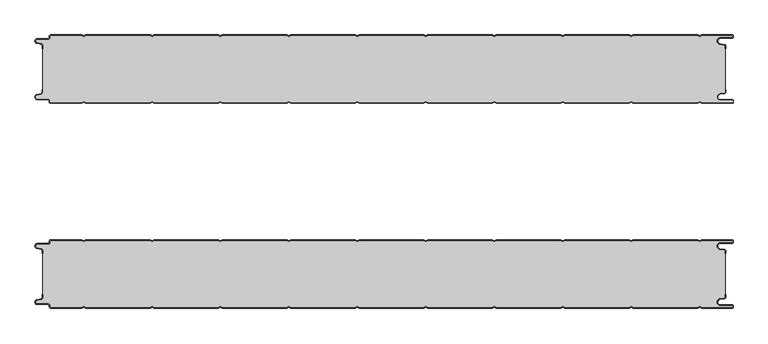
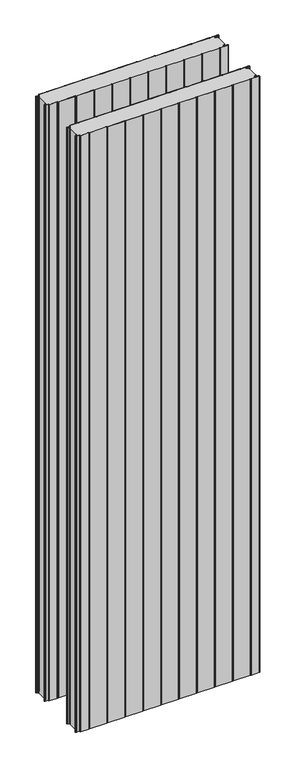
"""IFC4 building model written with IfcOpenShell, lengths in millimetres: plate geometry, Curtain-Panel_Doble-Panel-Acústico_Perfil-frigorífico-PMH : ACH_Doble-Panel-Acústico_PMH_100-200-100."""

from ifc_helpers import new_model, si_unit, point, frame_2d, origin, origin_with_axes, place, context, project, spatial, polyline, circle_curve, trimmed, segment, composite_curve, outline, extrude, source, transform, mapped, element, save


def plate_c56acabb(model_context):
    return source(origin(), model_context, "Body", "SweptSolid", [
        extrude(outline(composite_curve([segment(trimmed(circle_curve(frame_2d((-502.0, -315.878557)), 2.0), [point((-500.0, -315.878557))], [point((-501.5500978, -313.9298169))], True, "CARTESIAN"), True, "CONTINUOUS"), segment(polyline([(-501.5500978, -313.9298169), (-507.7098239, -312.507732)]), True, "CONTINUOUS"), segment(trimmed(circle_curve(frame_2d((-506.9, -309.0)), 3.6), [point((-507.7098239, -312.507732))], [point((-506.9, -305.4))], False, "CARTESIAN"), True, "CONTINUOUS"), segment(polyline([(-506.9, -305.4), (-491.4, -305.4)]), True, "CONTINUOUS"), segment(trimmed(circle_curve(frame_2d((-491.4, -303.4)), 2.0), [point((-491.4, -305.4))], [point((-489.4, -303.4))], True, "CARTESIAN"), True, "CONTINUOUS"), segment(polyline([(-489.4, -303.4), (-489.4, -302.0)]), True, "CONTINUOUS"), segment(trimmed(circle_curve(frame_2d((-487.4, -302.0)), 2.0), [point((-489.4, -302.0))], [point((-487.4, -300.0))], False, "CARTESIAN"), True, "CONTINUOUS"), segment(polyline([(-487.4, -300.0), (-442.0999995, -300.0), (-439.4, -301.5588455), (-436.7000005, -300.0), (-342.0999995, -300.0), (-339.4, -301.5588455), (-336.7000005, -300.0), (-242.0999995, -300.0), (-239.4, -301.5588455), (-236.7000005, -300.0), (-142.0999995, -300.0), (-139.4, -301.5588455), (-136.7000005, -300.0), (-42.0999995, -300.0), (-39.4, -301.5588455), (-36.7000005, -300.0), (57.9000005, -300.0), (60.6, -301.5588455), (63.2999995, -300.0), (157.9000005, -300.0), (160.6, -301.5588455), (163.2999995, -300.0), (257.9000005, -300.0), (260.6, -301.5588455), (263.2999995, -300.0), (357.9000005, -300.0), (360.6, -301.5588455), (363.2999995, -300.0), (457.9000005, -300.0), (460.6, -301.5588455), (463.2999995, -300.0), (508.1, -300.0)]), True, "CONTINUOUS"), segment(trimmed(circle_curve(frame_2d((508.1, -302.5)), 2.5), [point((508.1, -300.0))], [point((509.6, -300.5))], False, "CARTESIAN"), True, "CONTINUOUS"), segment(polyline([(509.6, -300.5), (509.6, -301.7)]), True, "CONTINUOUS"), segment(trimmed(circle_curve(frame_2d((508.1, -302.5)), 1.7), [point((509.6, -301.7))], [point((508.1, -300.8))], True, "CARTESIAN"), True, "CONTINUOUS"), segment(polyline([(508.1, -300.8), (463.5143588, -300.8), (460.6, -302.482606), (457.6856412, -300.8), (363.5143588, -300.8), (360.6, -302.482606), (357.6856412, -300.8), (263.5143588, -300.8), (260.6, -302.482606), (257.6856412, -300.8), (163.5143588, -300.8), (160.6, -302.482606), (157.6856412, -300.8), (63.5143588, -300.8), (60.6, -302.482606), (57.6856412, -300.8), (-36.4856412, -300.8), (-39.4, -302.482606), (-42.3143588, -300.8), (-136.4856412, -300.8), (-139.4, -302.482606), (-142.3143588, -300.8), (-236.4856412, -300.8), (-239.4, -302.482606), (-242.3143588, -300.8), (-336.4856412, -300.8), (-339.4, -302.482606), (-342.3143588, -300.8), (-436.4856412, -300.8), (-439.4, -302.482606), (-442.3143588, -300.8), (-487.4, -300.8)]), True, "CONTINUOUS"), segment(trimmed(circle_curve(frame_2d((-487.4, -302.0)), 1.2), [point((-487.4, -300.8))], [point((-488.6, -302.0))], True, "CARTESIAN"), True, "CONTINUOUS"), segment(polyline([(-488.6, -302.0), (-488.6, -303.4)]), True, "CONTINUOUS"), segment(trimmed(circle_curve(frame_2d((-491.4, -303.4)), 2.8), [point((-488.6, -303.4))], [point((-491.4, -306.2))], False, "CARTESIAN"), True, "CONTINUOUS"), segment(polyline([(-491.4, -306.2), (-506.9, -306.2)]), True, "CONTINUOUS"), segment(trimmed(circle_curve(frame_2d((-506.9, -309.0)), 2.8), [point((-506.9, -306.2))], [point((-507.529863, -311.7282362))], True, "CARTESIAN"), True, "CONTINUOUS"), segment(polyline([(-507.529863, -311.7282362), (-501.370137, -313.150321)]), True, "CONTINUOUS"), segment(trimmed(circle_curve(frame_2d((-502.0, -315.878557)), 2.8), [point((-501.370137, -313.150321))], [point((-499.2, -315.878557))], False, "CARTESIAN"), True, "CONTINUOUS"), segment(polyline([(-499.2, -315.878557), (-499.2, -320.0), (-500.0, -320.0), (-500.0, -315.878557)]), True, "CONTINUOUS")], self_intersect=False)), origin_with_axes(), (0.0, 0.0, 1.0), 3500.0),
        extrude(outline(composite_curve([segment(polyline([(508.1, -305.0), (491.1, -305.0)]), True, "CONTINUOUS"), segment(trimmed(circle_curve(frame_2d((491.1, -309.0)), 4.0), [point((491.1, -305.0))], [point((490.405407, -312.939231))], True, "CARTESIAN"), True, "CONTINUOUS"), segment(polyline([(490.405407, -312.939231), (496.8514855, -314.0758491)]), True, "CONTINUOUS"), segment(trimmed(circle_curve(frame_2d((496.4, -316.6363492)), 2.6), [point((496.8514855, -314.0758491))], [point((499.0, -316.6363492))], False, "CARTESIAN"), True, "CONTINUOUS"), segment(polyline([(499.0, -316.6363492), (499.0, -320.0), (498.2, -320.0), (498.2, -316.6363492)]), True, "CONTINUOUS"), segment(trimmed(circle_curve(frame_2d((496.4, -316.6363492)), 1.8), [point((498.2, -316.6363492))], [point((496.7125669, -314.8636953))], True, "CARTESIAN"), True, "CONTINUOUS"), segment(polyline([(496.7125669, -314.8636953), (490.2664884, -313.7270772)]), True, "CONTINUOUS"), segment(trimmed(circle_curve(frame_2d((491.1, -309.0)), 4.8), [point((490.2664884, -313.7270772))], [point((491.1, -304.2))], False, "CARTESIAN"), True, "CONTINUOUS"), segment(polyline([(491.1, -304.2), (508.1, -304.2)]), True, "CONTINUOUS"), segment(trimmed(circle_curve(frame_2d((508.1, -302.5)), 1.7), [point((508.1, -304.2))], [point((509.6, -303.3))], True, "CARTESIAN"), True, "CONTINUOUS"), segment(polyline([(509.6, -303.3), (509.6, -304.5)]), True, "CONTINUOUS"), segment(trimmed(circle_curve(frame_2d((508.1, -302.5)), 2.5), [point((509.6, -304.5))], [point((508.1, -305.0))], False, "CARTESIAN"), True, "CONTINUOUS")], self_intersect=False)), origin_with_axes(), (0.0, 0.0, 1.0), 3500.0),
        extrude(outline(composite_curve([segment(polyline([(-500.0, -384.121443), (-500.0, -380.0), (-499.2, -380.0), (-499.2, -384.121443)]), True, "CONTINUOUS"), segment(trimmed(circle_curve(frame_2d((-502.0, -384.121443)), 2.8), [point((-499.2, -384.121443))], [point((-501.370137, -386.8496792))], False, "CARTESIAN"), True, "CONTINUOUS"), segment(polyline([(-501.370137, -386.8496792), (-507.529863, -388.271764)]), True, "CONTINUOUS"), segment(trimmed(circle_curve(frame_2d((-506.9, -391.0)), 2.8), [point((-507.529863, -388.271764))], [point((-506.9, -393.8))], True, "CARTESIAN"), True, "CONTINUOUS"), segment(polyline([(-506.9, -393.8), (-491.4, -393.8)]), True, "CONTINUOUS"), segment(trimmed(circle_curve(frame_2d((-491.4, -396.6)), 2.8), [point((-491.4, -393.8))], [point((-488.6, -396.6))], False, "CARTESIAN"), True, "CONTINUOUS"), segment(polyline([(-488.6, -396.6), (-488.6, -398.0)]), True, "CONTINUOUS"), segment(trimmed(circle_curve(frame_2d((-487.4, -398.0)), 1.2), [point((-488.6, -398.0))], [point((-487.4, -399.2))], True, "CARTESIAN"), True, "CONTINUOUS"), segment(polyline([(-487.4, -399.2), (-442.3143588, -399.2), (-439.4, -397.517394), (-436.4856412, -399.2), (-342.3143588, -399.2), (-339.4, -397.517394), (-336.4856412, -399.2), (-242.3143588, -399.2), (-239.4, -397.517394), (-236.4856412, -399.2), (-142.3143588, -399.2), (-139.4, -397.517394), (-136.4856412, -399.2), (-42.3143588, -399.2), (-39.4, -397.517394), (-36.4856412, -399.2), (57.6856412, -399.2), (60.6, -397.517394), (63.5143588, -399.2), (157.6856412, -399.2), (160.6, -397.517394), (163.5143588, -399.2), (257.6856412, -399.2), (260.6, -397.517394), (263.5143588, -399.2), (357.6856412, -399.2), (360.6, -397.517394), (363.5143588, -399.2), (457.6856412, -399.2), (460.6, -397.517394), (463.5143588, -399.2), (508.1, -399.2)]), True, "CONTINUOUS"), segment(trimmed(circle_curve(frame_2d((508.1, -397.5)), 1.7), [point((508.1, -399.2))], [point((509.6, -398.3))], True, "CARTESIAN"), True, "CONTINUOUS"), segment(polyline([(509.6, -398.3), (509.6, -399.5)]), True, "CONTINUOUS"), segment(trimmed(circle_curve(frame_2d((508.1, -397.5)), 2.5), [point((509.6, -399.5))], [point((508.1, -400.0))], False, "CARTESIAN"), True, "CONTINUOUS"), segment(polyline([(508.1, -400.0), (463.2999995, -400.0), (460.6, -398.4411545), (457.9000005, -400.0), (363.2999995, -400.0), (360.6, -398.4411545), (357.9000005, -400.0), (263.2999995, -400.0), (260.6, -398.4411545), (257.9000005, -400.0), (163.2999995, -400.0), (160.6, -398.4411545), (157.9000005, -400.0), (63.2999995, -400.0), (60.6, -398.4411545), (57.9000005, -400.0), (-36.7000005, -400.0), (-39.4, -398.4411545), (-42.0999995, -400.0), (-136.7000005, -400.0), (-139.4, -398.4411545), (-142.0999995, -400.0), (-236.7000005, -400.0), (-239.4, -398.4411545), (-242.0999995, -400.0), (-336.7000005, -400.0), (-339.4, -398.4411545), (-342.0999995, -400.0), (-436.7000005, -400.0), (-439.4, -398.4411545), (-442.0999995, -400.0), (-487.4, -400.0)]), True, "CONTINUOUS"), segment(trimmed(circle_curve(frame_2d((-487.4, -398.0)), 2.0), [point((-487.4, -400.0))], [point((-489.4, -398.0))], False, "CARTESIAN"), True, "CONTINUOUS"), segment(polyline([(-489.4, -398.0), (-489.4, -396.6)]), True, "CONTINUOUS"), segment(trimmed(circle_curve(frame_2d((-491.4, -396.6)), 2.0), [point((-489.4, -396.6))], [point((-491.4, -394.6))], True, "CARTESIAN"), True, "CONTINUOUS"), segment(polyline([(-491.4, -394.6), (-506.9, -394.6)]), True, "CONTINUOUS"), segment(trimmed(circle_curve(frame_2d((-506.9, -391.0)), 3.6), [point((-506.9, -394.6))], [point((-507.7098239, -387.4922678))], False, "CARTESIAN"), True, "CONTINUOUS"), segment(polyline([(-507.7098239, -387.4922678), (-501.5500979, -386.070183)]), True, "CONTINUOUS"), segment(trimmed(circle_curve(frame_2d((-502.0, -384.121443)), 2.0), [point((-501.5500979, -386.070183))], [point((-500.0, -384.121443))], True, "CARTESIAN"), True, "CONTINUOUS")], self_intersect=False)), origin_with_axes(), (0.0, 0.0, 1.0), 3500.0),
        extrude(outline(composite_curve([segment(polyline([(508.1, -395.8), (491.1, -395.8)]), True, "CONTINUOUS"), segment(trimmed(circle_curve(frame_2d((491.1, -391.0)), 4.8), [point((491.1, -395.8))], [point((490.2664884, -386.2729229))], False, "CARTESIAN"), True, "CONTINUOUS"), segment(polyline([(490.2664884, -386.2729229), (496.7125669, -385.1363047)]), True, "CONTINUOUS"), segment(trimmed(circle_curve(frame_2d((496.4, -383.3636508)), 1.8), [point((496.7125669, -385.1363047))], [point((498.2, -383.3636508))], True, "CARTESIAN"), True, "CONTINUOUS"), segment(polyline([(498.2, -383.3636508), (498.2, -380.0), (499.0, -380.0), (499.0, -383.3636508)]), True, "CONTINUOUS"), segment(trimmed(circle_curve(frame_2d((496.4, -383.3636508)), 2.6), [point((499.0, -383.3636508))], [point((496.8514855, -385.9241509))], False, "CARTESIAN"), True, "CONTINUOUS"), segment(polyline([(496.8514855, -385.9241509), (490.405407, -387.060769)]), True, "CONTINUOUS"), segment(trimmed(circle_curve(frame_2d((491.1, -391.0)), 4.0), [point((490.405407, -387.060769))], [point((491.1, -395.0))], True, "CARTESIAN"), True, "CONTINUOUS"), segment(polyline([(491.1, -395.0), (508.1, -395.0)]), True, "CONTINUOUS"), segment(trimmed(circle_curve(frame_2d((508.1, -397.5)), 2.5), [point((508.1, -395.0))], [point((509.6, -395.5))], False, "CARTESIAN"), True, "CONTINUOUS"), segment(polyline([(509.6, -395.5), (509.6, -396.7)]), True, "CONTINUOUS"), segment(trimmed(circle_curve(frame_2d((508.1, -397.5)), 1.7), [point((509.6, -396.7))], [point((508.1, -395.8))], True, "CARTESIAN"), True, "CONTINUOUS")], self_intersect=False)), origin_with_axes(), (0.0, 0.0, 1.0), 3500.0),
        extrude(outline(composite_curve([segment(polyline([(-499.2, -384.1214426), (-499.2, -315.8785573)]), True, "CONTINUOUS"), segment(trimmed(circle_curve(frame_2d((-502.0, -315.8785573)), 2.8), [point((-499.2, -315.8785573))], [point((-501.370137, -313.1503212))], True, "CARTESIAN"), True, "CONTINUOUS"), segment(polyline([(-501.370137, -313.1503212), (-507.5298631, -311.7282362)]), True, "CONTINUOUS"), segment(trimmed(circle_curve(frame_2d((-506.9, -309.0)), 2.8), [point((-507.5298631, -311.7282362))], [point((-506.9, -306.2))], False, "CARTESIAN"), True, "CONTINUOUS"), segment(polyline([(-506.9, -306.2), (-491.4000001, -306.2)]), True, "CONTINUOUS"), segment(trimmed(circle_curve(frame_2d((-491.4000001, -303.4)), 2.8), [point((-491.4000001, -306.2))], [point((-488.6000001, -303.4))], True, "CARTESIAN"), True, "CONTINUOUS"), segment(polyline([(-488.6000001, -303.4), (-488.6000001, -302.0)]), True, "CONTINUOUS"), segment(trimmed(circle_curve(frame_2d((-487.4000001, -302.0)), 1.2), [point((-488.6000001, -302.0))], [point((-487.4000001, -300.8))], False, "CARTESIAN"), True, "CONTINUOUS"), segment(polyline([(-487.4000001, -300.8), (-442.3143589, -300.8), (-439.4000001, -302.482606), (-436.4856412, -300.8), (-342.3143589, -300.8), (-339.4000001, -302.482606), (-336.4856412, -300.8), (-242.3143589, -300.8), (-239.4000001, -302.482606), (-236.4856412, -300.8), (-142.3143589, -300.8), (-139.4000001, -302.482606), (-136.4856412, -300.8), (-42.3143589, -300.8), (-39.4000001, -302.482606), (-36.4856412, -300.8), (57.6856411, -300.8), (60.5999999, -302.482606), (63.5143588, -300.8), (157.6856411, -300.8), (160.5999999, -302.482606), (163.5143588, -300.8), (257.6856411, -300.8), (260.5999999, -302.482606), (263.5143588, -300.8), (357.6856411, -300.8), (360.5999999, -302.482606), (363.5143588, -300.8), (457.6856411, -300.8), (460.5999999, -302.482606), (463.5143588, -300.8), (508.0999999, -300.8)]), True, "CONTINUOUS"), segment(trimmed(circle_curve(frame_2d((508.0999999, -302.5)), 1.7), [point((508.0999999, -300.8))], [point((509.6, -301.7000001))], False, "CARTESIAN"), True, "CONTINUOUS"), segment(polyline([(509.6, -301.7000001), (509.6, -303.2999999)]), True, "CONTINUOUS"), segment(trimmed(circle_curve(frame_2d((508.0999999, -302.5)), 1.7), [point((509.6, -303.2999999))], [point((508.0999999, -304.2))], False, "CARTESIAN"), True, "CONTINUOUS"), segment(polyline([(508.0999999, -304.2), (491.0999999, -304.2)]), True, "CONTINUOUS"), segment(trimmed(circle_curve(frame_2d((491.0999999, -309.0)), 4.8), [point((491.0999999, -304.2))], [point((490.2664883, -313.7270771))], True, "CARTESIAN"), True, "CONTINUOUS"), segment(polyline([(490.2664883, -313.7270771), (496.7125668, -314.8636953)]), True, "CONTINUOUS"), segment(trimmed(circle_curve(frame_2d((496.3999999, -316.6363492)), 1.8), [point((496.7125668, -314.8636953))], [point((498.1999999, -316.6363492))], False, "CARTESIAN"), True, "CONTINUOUS"), segment(polyline([(498.1999999, -316.6363492), (498.1999999, -383.3636508)]), True, "CONTINUOUS"), segment(trimmed(circle_curve(frame_2d((496.3999999, -383.3636508)), 1.8), [point((498.1999999, -383.3636508))], [point((496.7125668, -385.1363047))], False, "CARTESIAN"), True, "CONTINUOUS"), segment(polyline([(496.7125668, -385.1363047), (490.2664883, -386.2729229)]), True, "CONTINUOUS"), segment(trimmed(circle_curve(frame_2d((491.0999999, -391.0)), 4.8), [point((490.2664883, -386.2729229))], [point((491.0999999, -395.8))], True, "CARTESIAN"), True, "CONTINUOUS"), segment(polyline([(491.0999999, -395.8), (508.0999999, -395.8)]), True, "CONTINUOUS"), segment(trimmed(circle_curve(frame_2d((508.0999999, -397.5)), 1.7), [point((508.0999999, -395.8))], [point((509.6, -396.7000001))], False, "CARTESIAN"), True, "CONTINUOUS"), segment(polyline([(509.6, -396.7000001), (509.6, -398.2999999)]), True, "CONTINUOUS"), segment(trimmed(circle_curve(frame_2d((508.0999999, -397.5)), 1.7), [point((509.6, -398.2999999))], [point((508.0999999, -399.2))], False, "CARTESIAN"), True, "CONTINUOUS"), segment(polyline([(508.0999999, -399.2), (463.5143588, -399.2), (460.5999999, -397.517394), (457.6856411, -399.2), (363.5143588, -399.2), (360.5999999, -397.517394), (357.6856411, -399.2), (263.5143588, -399.2), (260.5999999, -397.517394), (257.6856411, -399.2), (163.5143588, -399.2), (160.5999999, -397.517394), (157.6856411, -399.2), (63.5143588, -399.2), (60.5999999, -397.517394), (57.6856411, -399.2), (-36.4856412, -399.2), (-39.4000001, -397.517394), (-42.3143589, -399.2), (-136.4856412, -399.2), (-139.4000001, -397.517394), (-142.3143589, -399.2), (-236.4856412, -399.2), (-239.4000001, -397.517394), (-242.3143589, -399.2), (-336.4856412, -399.2), (-339.4000001, -397.517394), (-342.3143589, -399.2), (-436.4856412, -399.2), (-439.4000001, -397.517394), (-442.3143589, -399.2), (-487.4000001, -399.2)]), True, "CONTINUOUS"), segment(trimmed(circle_curve(frame_2d((-487.4000001, -398.0)), 1.2), [point((-487.4000001, -399.2))], [point((-488.6000001, -398.0))], False, "CARTESIAN"), True, "CONTINUOUS"), segment(polyline([(-488.6000001, -398.0), (-488.6000001, -396.6)]), True, "CONTINUOUS"), segment(trimmed(circle_curve(frame_2d((-491.4000001, -396.6)), 2.8), [point((-488.6000001, -396.6))], [point((-491.4000001, -393.8))], True, "CARTESIAN"), True, "CONTINUOUS"), segment(polyline([(-491.4000001, -393.8), (-506.9, -393.8)]), True, "CONTINUOUS"), segment(trimmed(circle_curve(frame_2d((-506.9, -391.0)), 2.8), [point((-506.9, -393.8))], [point((-507.5298631, -388.2717638))], False, "CARTESIAN"), True, "CONTINUOUS"), segment(polyline([(-507.5298631, -388.2717638), (-501.370137, -386.8496788)]), True, "CONTINUOUS"), segment(trimmed(circle_curve(frame_2d((-502.0, -384.1214426)), 2.8), [point((-501.370137, -386.8496788))], [point((-499.2, -384.1214426))], True, "CARTESIAN"), True, "CONTINUOUS")], self_intersect=False)), origin_with_axes(), (0.0, 0.0, 1.0), 3500.0),
        extrude(outline(composite_curve([segment(trimmed(circle_curve(frame_2d((-502.0, -15.878557)), 2.0), [point((-500.0, -15.878557))], [point((-501.5500978, -13.9298169))], True, "CARTESIAN"), True, "CONTINUOUS"), segment(polyline([(-501.5500978, -13.9298169), (-507.7098239, -12.507732)]), True, "CONTINUOUS"), segment(trimmed(circle_curve(frame_2d((-506.9, -9.0)), 3.6), [point((-507.7098239, -12.507732))], [point((-506.9, -5.4))], False, "CARTESIAN"), True, "CONTINUOUS"), segment(polyline([(-506.9, -5.4), (-491.4, -5.4)]), True, "CONTINUOUS"), segment(trimmed(circle_curve(frame_2d((-491.4, -3.4)), 2.0), [point((-491.4, -5.4))], [point((-489.4, -3.4))], True, "CARTESIAN"), True, "CONTINUOUS"), segment(polyline([(-489.4, -3.4), (-489.4, -2.0)]), True, "CONTINUOUS"), segment(trimmed(circle_curve(frame_2d((-487.4, -2.0)), 2.0), [point((-489.4, -2.0))], [point((-487.4, 0.0))], False, "CARTESIAN"), True, "CONTINUOUS"), segment(polyline([(-487.4, 0.0), (-442.0999995, 0.0), (-439.4, -1.5588455), (-436.7000005, 0.0), (-342.0999995, 0.0), (-339.4, -1.5588455), (-336.7000005, 0.0), (-242.0999995, 0.0), (-239.4, -1.5588455), (-236.7000005, 0.0), (-142.0999995, 0.0), (-139.4, -1.5588455), (-136.7000005, 0.0), (-42.0999995, 0.0), (-39.4, -1.5588455), (-36.7000005, 0.0), (57.9000005, 0.0), (60.6, -1.5588455), (63.2999995, 0.0), (157.9000005, 0.0), (160.6, -1.5588455), (163.2999995, 0.0), (257.9000005, 0.0), (260.6, -1.5588455), (263.2999995, 0.0), (357.9000005, 0.0), (360.6, -1.5588455), (363.2999995, 0.0), (457.9000005, 0.0), (460.6, -1.5588455), (463.2999995, 0.0), (508.1, 0.0)]), True, "CONTINUOUS"), segment(trimmed(circle_curve(frame_2d((508.1, -2.5)), 2.5), [point((508.1, 0.0))], [point((509.6, -0.5))], False, "CARTESIAN"), True, "CONTINUOUS"), segment(polyline([(509.6, -0.5), (509.6, -1.7)]), True, "CONTINUOUS"), segment(trimmed(circle_curve(frame_2d((508.1, -2.5)), 1.7), [point((509.6, -1.7))], [point((508.1, -0.8))], True, "CARTESIAN"), True, "CONTINUOUS"), segment(polyline([(508.1, -0.8), (463.5143588, -0.8), (460.6, -2.482606), (457.6856412, -0.8), (363.5143588, -0.8), (360.6, -2.482606), (357.6856412, -0.8), (263.5143588, -0.8), (260.6, -2.482606), (257.6856412, -0.8), (163.5143588, -0.8), (160.6, -2.482606), (157.6856412, -0.8), (63.5143588, -0.8), (60.6, -2.482606), (57.6856412, -0.8), (-36.4856412, -0.8), (-39.4, -2.482606), (-42.3143588, -0.8), (-136.4856412, -0.8), (-139.4, -2.482606), (-142.3143588, -0.8), (-236.4856412, -0.8), (-239.4, -2.482606), (-242.3143588, -0.8), (-336.4856412, -0.8), (-339.4, -2.482606), (-342.3143588, -0.8), (-436.4856412, -0.8), (-439.4, -2.482606), (-442.3143588, -0.8), (-487.4, -0.8)]), True, "CONTINUOUS"), segment(trimmed(circle_curve(frame_2d((-487.4, -2.0)), 1.2), [point((-487.4, -0.8))], [point((-488.6, -2.0))], True, "CARTESIAN"), True, "CONTINUOUS"), segment(polyline([(-488.6, -2.0), (-488.6, -3.4)]), True, "CONTINUOUS"), segment(trimmed(circle_curve(frame_2d((-491.4, -3.4)), 2.8), [point((-488.6, -3.4))], [point((-491.4, -6.2))], False, "CARTESIAN"), True, "CONTINUOUS"), segment(polyline([(-491.4, -6.2), (-506.9, -6.2)]), True, "CONTINUOUS"), segment(trimmed(circle_curve(frame_2d((-506.9, -9.0)), 2.8), [point((-506.9, -6.2))], [point((-507.529863, -11.7282362))], True, "CARTESIAN"), True, "CONTINUOUS"), segment(polyline([(-507.529863, -11.7282362), (-501.370137, -13.150321)]), True, "CONTINUOUS"), segment(trimmed(circle_curve(frame_2d((-502.0, -15.878557)), 2.8), [point((-501.370137, -13.150321))], [point((-499.2, -15.878557))], False, "CARTESIAN"), True, "CONTINUOUS"), segment(polyline([(-499.2, -15.878557), (-499.2, -20.0), (-500.0, -20.0), (-500.0, -15.878557)]), True, "CONTINUOUS")], self_intersect=False)), origin_with_axes(), (0.0, 0.0, 1.0), 3500.0),
        extrude(outline(composite_curve([segment(polyline([(508.1, -5.0), (491.1, -5.0)]), True, "CONTINUOUS"), segment(trimmed(circle_curve(frame_2d((491.1, -9.0)), 4.0), [point((491.1, -5.0))], [point((490.405407, -12.939231))], True, "CARTESIAN"), True, "CONTINUOUS"), segment(polyline([(490.405407, -12.939231), (496.8514855, -14.0758491)]), True, "CONTINUOUS"), segment(trimmed(circle_curve(frame_2d((496.4, -16.6363492)), 2.6), [point((496.8514855, -14.0758491))], [point((499.0, -16.6363492))], False, "CARTESIAN"), True, "CONTINUOUS"), segment(polyline([(499.0, -16.6363492), (499.0, -20.0), (498.2, -20.0), (498.2, -16.6363492)]), True, "CONTINUOUS"), segment(trimmed(circle_curve(frame_2d((496.4, -16.6363492)), 1.8), [point((498.2, -16.6363492))], [point((496.7125669, -14.8636953))], True, "CARTESIAN"), True, "CONTINUOUS"), segment(polyline([(496.7125669, -14.8636953), (490.2664884, -13.7270772)]), True, "CONTINUOUS"), segment(trimmed(circle_curve(frame_2d((491.1, -9.0)), 4.8), [point((490.2664884, -13.7270772))], [point((491.1, -4.2))], False, "CARTESIAN"), True, "CONTINUOUS"), segment(polyline([(491.1, -4.2), (508.1, -4.2)]), True, "CONTINUOUS"), segment(trimmed(circle_curve(frame_2d((508.1, -2.5)), 1.7), [point((508.1, -4.2))], [point((509.6, -3.3))], True, "CARTESIAN"), True, "CONTINUOUS"), segment(polyline([(509.6, -3.3), (509.6, -4.5)]), True, "CONTINUOUS"), segment(trimmed(circle_curve(frame_2d((508.1, -2.5)), 2.5), [point((509.6, -4.5))], [point((508.1, -5.0))], False, "CARTESIAN"), True, "CONTINUOUS")], self_intersect=False)), origin_with_axes(), (0.0, 0.0, 1.0), 3500.0),
        extrude(outline(composite_curve([segment(polyline([(-499.2, -84.1214426), (-499.2, -15.8785573)]), True, "CONTINUOUS"), segment(trimmed(circle_curve(frame_2d((-502.0, -15.8785573)), 2.8), [point((-499.2, -15.8785573))], [point((-501.370137, -13.1503212))], True, "CARTESIAN"), True, "CONTINUOUS"), segment(polyline([(-501.370137, -13.1503212), (-507.5298631, -11.7282362)]), True, "CONTINUOUS"), segment(trimmed(circle_curve(frame_2d((-506.9, -9.0)), 2.8), [point((-507.5298631, -11.7282362))], [point((-506.9, -6.2))], False, "CARTESIAN"), True, "CONTINUOUS"), segment(polyline([(-506.9, -6.2), (-491.4000001, -6.2)]), True, "CONTINUOUS"), segment(trimmed(circle_curve(frame_2d((-491.4000001, -3.4)), 2.8), [point((-491.4000001, -6.2))], [point((-488.6000001, -3.4))], True, "CARTESIAN"), True, "CONTINUOUS"), segment(polyline([(-488.6000001, -3.4), (-488.6000001, -2.0)]), True, "CONTINUOUS"), segment(trimmed(circle_curve(frame_2d((-487.4000001, -2.0)), 1.2), [point((-488.6000001, -2.0))], [point((-487.4000001, -0.8))], False, "CARTESIAN"), True, "CONTINUOUS"), segment(polyline([(-487.4000001, -0.8), (-442.3143589, -0.8), (-439.4000001, -2.482606), (-436.4856412, -0.8), (-342.3143589, -0.8), (-339.4000001, -2.482606), (-336.4856412, -0.8), (-242.3143589, -0.8), (-239.4000001, -2.482606), (-236.4856412, -0.8), (-142.3143589, -0.8), (-139.4000001, -2.482606), (-136.4856412, -0.8), (-42.3143589, -0.8), (-39.4000001, -2.482606), (-36.4856412, -0.8), (57.6856411, -0.8), (60.5999999, -2.482606), (63.5143588, -0.8), (157.6856411, -0.8), (160.5999999, -2.482606), (163.5143588, -0.8), (257.6856411, -0.8), (260.5999999, -2.482606), (263.5143588, -0.8), (357.6856411, -0.8), (360.5999999, -2.482606), (363.5143588, -0.8), (457.6856411, -0.8), (460.5999999, -2.482606), (463.5143588, -0.8), (508.0999999, -0.8)]), True, "CONTINUOUS"), segment(trimmed(circle_curve(frame_2d((508.0999999, -2.5)), 1.7), [point((508.0999999, -0.8))], [point((509.6, -1.7000001))], False, "CARTESIAN"), True, "CONTINUOUS"), segment(polyline([(509.6, -1.7000001), (509.6, -3.2999999)]), True, "CONTINUOUS"), segment(trimmed(circle_curve(frame_2d((508.0999999, -2.5)), 1.7), [point((509.6, -3.2999999))], [point((508.0999999, -4.2))], False, "CARTESIAN"), True, "CONTINUOUS"), segment(polyline([(508.0999999, -4.2), (491.0999999, -4.2)]), True, "CONTINUOUS"), segment(trimmed(circle_curve(frame_2d((491.0999999, -9.0)), 4.8), [point((491.0999999, -4.2))], [point((490.2664883, -13.7270771))], True, "CARTESIAN"), True, "CONTINUOUS"), segment(polyline([(490.2664883, -13.7270771), (496.7125668, -14.8636953)]), True, "CONTINUOUS"), segment(trimmed(circle_curve(frame_2d((496.3999999, -16.6363492)), 1.8), [point((496.7125668, -14.8636953))], [point((498.1999999, -16.6363492))], False, "CARTESIAN"), True, "CONTINUOUS"), segment(polyline([(498.1999999, -16.6363492), (498.1999999, -83.3636508)]), True, "CONTINUOUS"), segment(trimmed(circle_curve(frame_2d((496.3999999, -83.3636508)), 1.8), [point((498.1999999, -83.3636508))], [point((496.7125668, -85.1363047))], False, "CARTESIAN"), True, "CONTINUOUS"), segment(polyline([(496.7125668, -85.1363047), (490.2664883, -86.2729229)]), True, "CONTINUOUS"), segment(trimmed(circle_curve(frame_2d((491.0999999, -91.0)), 4.8), [point((490.2664883, -86.2729229))], [point((491.0999999, -95.8))], True, "CARTESIAN"), True, "CONTINUOUS"), segment(polyline([(491.0999999, -95.8), (508.0999999, -95.8)]), True, "CONTINUOUS"), segment(trimmed(circle_curve(frame_2d((508.0999999, -97.5)), 1.7), [point((508.0999999, -95.8))], [point((509.6, -96.7000001))], False, "CARTESIAN"), True, "CONTINUOUS"), segment(polyline([(509.6, -96.7000001), (509.6, -98.2999999)]), True, "CONTINUOUS"), segment(trimmed(circle_curve(frame_2d((508.0999999, -97.5)), 1.7), [point((509.6, -98.2999999))], [point((508.0999999, -99.2))], False, "CARTESIAN"), True, "CONTINUOUS"), segment(polyline([(508.0999999, -99.2), (463.5143588, -99.2), (460.5999999, -97.517394), (457.6856411, -99.2), (363.5143588, -99.2), (360.5999999, -97.517394), (357.6856411, -99.2), (263.5143588, -99.2), (260.5999999, -97.517394), (257.6856411, -99.2), (163.5143588, -99.2), (160.5999999, -97.517394), (157.6856411, -99.2), (63.5143588, -99.2), (60.5999999, -97.517394), (57.6856411, -99.2), (-36.4856412, -99.2), (-39.4000001, -97.517394), (-42.3143589, -99.2), (-136.4856412, -99.2), (-139.4000001, -97.517394), (-142.3143589, -99.2), (-236.4856412, -99.2), (-239.4000001, -97.517394), (-242.3143589, -99.2), (-336.4856412, -99.2), (-339.4000001, -97.517394), (-342.3143589, -99.2), (-436.4856412, -99.2), (-439.4000001, -97.517394), (-442.3143589, -99.2), (-487.4000001, -99.2)]), True, "CONTINUOUS"), segment(trimmed(circle_curve(frame_2d((-487.4000001, -98.0)), 1.2), [point((-487.4000001, -99.2))], [point((-488.6000001, -98.0))], False, "CARTESIAN"), True, "CONTINUOUS"), segment(polyline([(-488.6000001, -98.0), (-488.6000001, -96.6)]), True, "CONTINUOUS"), segment(trimmed(circle_curve(frame_2d((-491.4000001, -96.6)), 2.8), [point((-488.6000001, -96.6))], [point((-491.4000001, -93.8))], True, "CARTESIAN"), True, "CONTINUOUS"), segment(polyline([(-491.4000001, -93.8), (-506.9, -93.8)]), True, "CONTINUOUS"), segment(trimmed(circle_curve(frame_2d((-506.9, -91.0)), 2.8), [point((-506.9, -93.8))], [point((-507.5298631, -88.2717638))], False, "CARTESIAN"), True, "CONTINUOUS"), segment(polyline([(-507.5298631, -88.2717638), (-501.370137, -86.8496788)]), True, "CONTINUOUS"), segment(trimmed(circle_curve(frame_2d((-502.0, -84.1214426)), 2.8), [point((-501.370137, -86.8496788))], [point((-499.2, -84.1214426))], True, "CARTESIAN"), True, "CONTINUOUS")], self_intersect=False)), origin_with_axes(), (0.0, 0.0, 1.0), 3500.0),
        extrude(outline(composite_curve([segment(polyline([(-500.0, -84.121443), (-500.0, -80.0), (-499.2, -80.0), (-499.2, -84.121443)]), True, "CONTINUOUS"), segment(trimmed(circle_curve(frame_2d((-502.0, -84.121443)), 2.8), [point((-499.2, -84.121443))], [point((-501.370137, -86.8496792))], False, "CARTESIAN"), True, "CONTINUOUS"), segment(polyline([(-501.370137, -86.8496792), (-507.529863, -88.271764)]), True, "CONTINUOUS"), segment(trimmed(circle_curve(frame_2d((-506.9, -91.0)), 2.8), [point((-507.529863, -88.271764))], [point((-506.9, -93.8))], True, "CARTESIAN"), True, "CONTINUOUS"), segment(polyline([(-506.9, -93.8), (-491.4, -93.8)]), True, "CONTINUOUS"), segment(trimmed(circle_curve(frame_2d((-491.4, -96.6)), 2.8), [point((-491.4, -93.8))], [point((-488.6, -96.6))], False, "CARTESIAN"), True, "CONTINUOUS"), segment(polyline([(-488.6, -96.6), (-488.6, -98.0)]), True, "CONTINUOUS"), segment(trimmed(circle_curve(frame_2d((-487.4, -98.0)), 1.2), [point((-488.6, -98.0))], [point((-487.4, -99.2))], True, "CARTESIAN"), True, "CONTINUOUS"), segment(polyline([(-487.4, -99.2), (-442.3143588, -99.2), (-439.4, -97.517394), (-436.4856412, -99.2), (-342.3143588, -99.2), (-339.4, -97.517394), (-336.4856412, -99.2), (-242.3143588, -99.2), (-239.4, -97.517394), (-236.4856412, -99.2), (-142.3143588, -99.2), (-139.4, -97.517394), (-136.4856412, -99.2), (-42.3143588, -99.2), (-39.4, -97.517394), (-36.4856412, -99.2), (57.6856412, -99.2), (60.6, -97.517394), (63.5143588, -99.2), (157.6856412, -99.2), (160.6, -97.517394), (163.5143588, -99.2), (257.6856412, -99.2), (260.6, -97.517394), (263.5143588, -99.2), (357.6856412, -99.2), (360.6, -97.517394), (363.5143588, -99.2), (457.6856412, -99.2), (460.6, -97.517394), (463.5143588, -99.2), (508.1, -99.2)]), True, "CONTINUOUS"), segment(trimmed(circle_curve(frame_2d((508.1, -97.5)), 1.7), [point((508.1, -99.2))], [point((509.6, -98.3))], True, "CARTESIAN"), True, "CONTINUOUS"), segment(polyline([(509.6, -98.3), (509.6, -99.5)]), True, "CONTINUOUS"), segment(trimmed(circle_curve(frame_2d((508.1, -97.5)), 2.5), [point((509.6, -99.5))], [point((508.1, -100.0))], False, "CARTESIAN"), True, "CONTINUOUS"), segment(polyline([(508.1, -100.0), (463.2999995, -100.0), (460.6, -98.4411545), (457.9000005, -100.0), (363.2999995, -100.0), (360.6, -98.4411545), (357.9000005, -100.0), (263.2999995, -100.0), (260.6, -98.4411545), (257.9000005, -100.0), (163.2999995, -100.0), (160.6, -98.4411545), (157.9000005, -100.0), (63.2999995, -100.0), (60.6, -98.4411545), (57.9000005, -100.0), (-36.7000005, -100.0), (-39.4, -98.4411545), (-42.0999995, -100.0), (-136.7000005, -100.0), (-139.4, -98.4411545), (-142.0999995, -100.0), (-236.7000005, -100.0), (-239.4, -98.4411545), (-242.0999995, -100.0), (-336.7000005, -100.0), (-339.4, -98.4411545), (-342.0999995, -100.0), (-436.7000005, -100.0), (-439.4, -98.4411545), (-442.0999995, -100.0), (-487.4, -100.0)]), True, "CONTINUOUS"), segment(trimmed(circle_curve(frame_2d((-487.4, -98.0)), 2.0), [point((-487.4, -100.0))], [point((-489.4, -98.0))], False, "CARTESIAN"), True, "CONTINUOUS"), segment(polyline([(-489.4, -98.0), (-489.4, -96.6)]), True, "CONTINUOUS"), segment(trimmed(circle_curve(frame_2d((-491.4, -96.6)), 2.0), [point((-489.4, -96.6))], [point((-491.4, -94.6))], True, "CARTESIAN"), True, "CONTINUOUS"), segment(polyline([(-491.4, -94.6), (-506.9, -94.6)]), True, "CONTINUOUS"), segment(trimmed(circle_curve(frame_2d((-506.9, -91.0)), 3.6), [point((-506.9, -94.6))], [point((-507.7098239, -87.4922678))], False, "CARTESIAN"), True, "CONTINUOUS"), segment(polyline([(-507.7098239, -87.4922678), (-501.5500979, -86.070183)]), True, "CONTINUOUS"), segment(trimmed(circle_curve(frame_2d((-502.0, -84.121443)), 2.0), [point((-501.5500979, -86.070183))], [point((-500.0, -84.121443))], True, "CARTESIAN"), True, "CONTINUOUS")], self_intersect=False)), origin_with_axes(), (0.0, 0.0, 1.0), 3500.0),
        extrude(outline(composite_curve([segment(polyline([(508.1, -95.8), (491.1, -95.8)]), True, "CONTINUOUS"), segment(trimmed(circle_curve(frame_2d((491.1, -91.0)), 4.8), [point((491.1, -95.8))], [point((490.2664884, -86.2729229))], False, "CARTESIAN"), True, "CONTINUOUS"), segment(polyline([(490.2664884, -86.2729229), (496.7125669, -85.1363047)]), True, "CONTINUOUS"), segment(trimmed(circle_curve(frame_2d((496.4, -83.3636508)), 1.8), [point((496.7125669, -85.1363047))], [point((498.2, -83.3636508))], True, "CARTESIAN"), True, "CONTINUOUS"), segment(polyline([(498.2, -83.3636508), (498.2, -80.0), (499.0, -80.0), (499.0, -83.3636508)]), True, "CONTINUOUS"), segment(trimmed(circle_curve(frame_2d((496.4, -83.3636508)), 2.6), [point((499.0, -83.3636508))], [point((496.8514855, -85.9241509))], False, "CARTESIAN"), True, "CONTINUOUS"), segment(polyline([(496.8514855, -85.9241509), (490.405407, -87.060769)]), True, "CONTINUOUS"), segment(trimmed(circle_curve(frame_2d((491.1, -91.0)), 4.0), [point((490.405407, -87.060769))], [point((491.1, -95.0))], True, "CARTESIAN"), True, "CONTINUOUS"), segment(polyline([(491.1, -95.0), (508.1, -95.0)]), True, "CONTINUOUS"), segment(trimmed(circle_curve(frame_2d((508.1, -97.5)), 2.5), [point((508.1, -95.0))], [point((509.6, -95.5))], False, "CARTESIAN"), True, "CONTINUOUS"), segment(polyline([(509.6, -95.5), (509.6, -96.7)]), True, "CONTINUOUS"), segment(trimmed(circle_curve(frame_2d((508.1, -97.5)), 1.7), [point((509.6, -96.7))], [point((508.1, -95.8))], True, "CARTESIAN"), True, "CONTINUOUS")], self_intersect=False)), origin_with_axes(), (0.0, 0.0, 1.0), 3500.0),
    ])


if __name__ == "__main__":
    model = new_model("IFC4")
    model_context = context("Model", 3, world=origin())
    ifc_project = project(units=[si_unit("LENGTHUNIT", "METRE", prefix="MILLI")], contexts=[model_context])
    site = spatial("IfcSite", under=ifc_project)
    building = spatial("IfcBuilding", under=site)
    placement = place(None, origin())
    plate_shape = plate_c56acabb(model_context)
    element("IfcPlate", 1, ObjectType="Curtain-Panel_Doble-Panel-Acústico_Perfil-frigorífico-PMH : ACH_Doble-Panel-Acústico_PMH_100-200-100", at=placement, inside=building, context=model_context, shape_type="MappedRepresentation", body=[
        mapped(plate_shape, transform((0.0, 0.0, 0.0), x_axis=(1.0, 0.0, 0.0), y_axis=(0.0, 1.0, 0.0), z_axis=(0.0, 0.0, 1.0))),
    ])
    save(model, "model.ifc")
